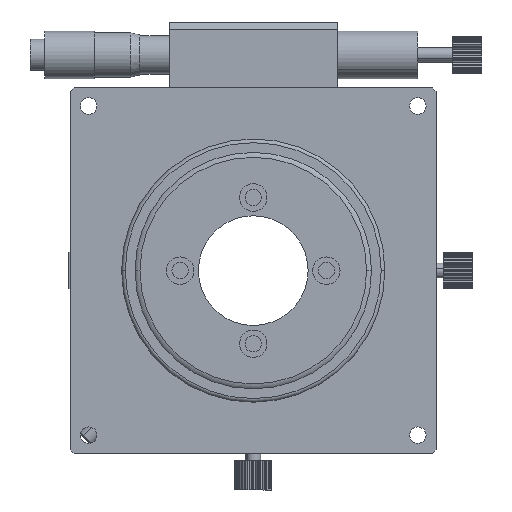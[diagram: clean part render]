
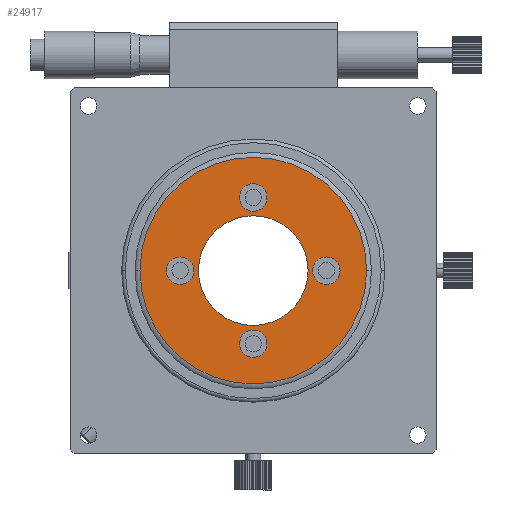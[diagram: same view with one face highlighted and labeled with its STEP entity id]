
A CAD part, front view. The second image highlights one B-rep face of the part: STEP entity #24917.
In plain terms, the highlighted planar face has unit normal (0, -1, 0).
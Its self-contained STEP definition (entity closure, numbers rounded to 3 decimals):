
#563 = AXIS2_PLACEMENT_3D ( 'NONE', #9814, #31135, #12867 ) ;
#587 = DIRECTION ( 'NONE',  ( 0., 0., -1. ) ) ;
#903 = FACE_OUTER_BOUND ( 'NONE', #1367, .T. ) ;
#966 = DIRECTION ( 'NONE',  ( 0., 0., -1. ) ) ;
#1009 = EDGE_LOOP ( 'NONE', ( #16637, #22359 ) ) ;
#1254 = CARTESIAN_POINT ( 'NONE',  ( 23.406, -21.158, 0. ) ) ;
#1337 = VERTEX_POINT ( 'NONE', #23628 ) ;
#1367 = EDGE_LOOP ( 'NONE', ( #6134, #11586 ) ) ;
#1520 = CARTESIAN_POINT ( 'NONE',  ( 3.406, -21.158, -23.75 ) ) ;
#1614 = CARTESIAN_POINT ( 'NONE',  ( 23.406, -21.158, -3.75 ) ) ;
#1992 = CIRCLE ( 'NONE', #24796, 3.75 ) ;
#2090 = AXIS2_PLACEMENT_3D ( 'NONE', #30614, #12341, #33673 ) ;
#2558 = EDGE_LOOP ( 'NONE', ( #32750, #18822 ) ) ;
#2568 = DIRECTION ( 'NONE',  ( 0., 0., -1. ) ) ;
#3516 = AXIS2_PLACEMENT_3D ( 'NONE', #17241, #38612, #20324 ) ;
#3521 = EDGE_CURVE ( 'NONE', #29390, #11456, #30899, .T. ) ;
#3973 = CARTESIAN_POINT ( 'NONE',  ( 3.406, -21.158, 20. ) ) ;
#4304 = DIRECTION ( 'NONE',  ( 0., 0., -1. ) ) ;
#5346 = CIRCLE ( 'NONE', #26317, 3.75 ) ;
#5705 = CARTESIAN_POINT ( 'NONE',  ( 3.406, -21.158, -15. ) ) ;
#6134 = ORIENTED_EDGE ( 'NONE', *, *, #6574, .F. ) ;
#6152 = CIRCLE ( 'NONE', #20673, 15. ) ;
#6574 = EDGE_CURVE ( 'NONE', #32008, #1337, #10202, .T. ) ;
#6951 = DIRECTION ( 'NONE',  ( 0., -1., 0. ) ) ;
#6994 = DIRECTION ( 'NONE',  ( 0., 0., -1. ) ) ;
#8507 = PLANE ( 'NONE',  #19730 ) ;
#8809 = EDGE_CURVE ( 'NONE', #14432, #32507, #6152, .T. ) ;
#8873 = AXIS2_PLACEMENT_3D ( 'NONE', #10730, #32045, #13769 ) ;
#8939 = AXIS2_PLACEMENT_3D ( 'NONE', #33422, #15155, #36497 ) ;
#8972 = FACE_BOUND ( 'NONE', #2558, .T. ) ;
#9814 = CARTESIAN_POINT ( 'NONE',  ( 23.406, -21.158, 0. ) ) ;
#9825 = EDGE_CURVE ( 'NONE', #32507, #14432, #14773, .T. ) ;
#9952 = FACE_BOUND ( 'NONE', #36792, .T. ) ;
#10202 = CIRCLE ( 'NONE', #8873, 31. ) ;
#10730 = CARTESIAN_POINT ( 'NONE',  ( 3.406, -21.158, 0. ) ) ;
#10908 = FACE_BOUND ( 'NONE', #27902, .T. ) ;
#11456 = VERTEX_POINT ( 'NONE', #37898 ) ;
#11462 = VERTEX_POINT ( 'NONE', #1520 ) ;
#11586 = ORIENTED_EDGE ( 'NONE', *, *, #21213, .F. ) ;
#12341 = DIRECTION ( 'NONE',  ( 0., -1., 0. ) ) ;
#12819 = CIRCLE ( 'NONE', #35246, 3.75 ) ;
#12867 = DIRECTION ( 'NONE',  ( 0., 0., -1. ) ) ;
#13032 = CARTESIAN_POINT ( 'NONE',  ( 3.406, -21.158, 23.75 ) ) ;
#13285 = VERTEX_POINT ( 'NONE', #13032 ) ;
#13305 = AXIS2_PLACEMENT_3D ( 'NONE', #18165, #39533, #21236 ) ;
#13769 = DIRECTION ( 'NONE',  ( 0., 0., 1. ) ) ;
#14432 = VERTEX_POINT ( 'NONE', #25705 ) ;
#14773 = CIRCLE ( 'NONE', #2090, 15. ) ;
#15141 = ORIENTED_EDGE ( 'NONE', *, *, #34669, .F. ) ;
#15155 = DIRECTION ( 'NONE',  ( 0., 1., 0. ) ) ;
#15213 = CARTESIAN_POINT ( 'NONE',  ( 3.406, -21.158, 31. ) ) ;
#16637 = ORIENTED_EDGE ( 'NONE', *, *, #3521, .F. ) ;
#16842 = CARTESIAN_POINT ( 'NONE',  ( 3.406, -21.158, 20. ) ) ;
#17051 = FACE_BOUND ( 'NONE', #1009, .T. ) ;
#17241 = CARTESIAN_POINT ( 'NONE',  ( 3.406, -21.158, -20. ) ) ;
#17415 = AXIS2_PLACEMENT_3D ( 'NONE', #1254, #22555, #4304 ) ;
#17609 = CARTESIAN_POINT ( 'NONE',  ( -16.594, -21.158, 3.75 ) ) ;
#18165 = CARTESIAN_POINT ( 'NONE',  ( -16.594, -21.158, 0. ) ) ;
#18465 = AXIS2_PLACEMENT_3D ( 'NONE', #37093, #18805, #587 ) ;
#18805 = DIRECTION ( 'NONE',  ( 0., -1., 0. ) ) ;
#18822 = ORIENTED_EDGE ( 'NONE', *, *, #8809, .F. ) ;
#18877 = CIRCLE ( 'NONE', #17415, 3.75 ) ;
#19204 = DIRECTION ( 'NONE',  ( 0., -1., 0. ) ) ;
#19730 = AXIS2_PLACEMENT_3D ( 'NONE', #29850, #20777, #2568 ) ;
#19741 = EDGE_CURVE ( 'NONE', #13285, #19949, #12819, .T. ) ;
#19938 = DIRECTION ( 'NONE',  ( 0., 0., -1. ) ) ;
#19949 = VERTEX_POINT ( 'NONE', #32593 ) ;
#20120 = CIRCLE ( 'NONE', #13305, 3.75 ) ;
#20324 = DIRECTION ( 'NONE',  ( 0., 0., -1. ) ) ;
#20673 = AXIS2_PLACEMENT_3D ( 'NONE', #25224, #6951, #28305 ) ;
#20777 = DIRECTION ( 'NONE',  ( 0., -1., 0. ) ) ;
#21213 = EDGE_CURVE ( 'NONE', #1337, #32008, #34068, .T. ) ;
#21236 = DIRECTION ( 'NONE',  ( 0., 0., -1. ) ) ;
#21578 = CARTESIAN_POINT ( 'NONE',  ( -16.594, -21.158, -3.75 ) ) ;
#21989 = CIRCLE ( 'NONE', #3516, 3.75 ) ;
#22359 = ORIENTED_EDGE ( 'NONE', *, *, #26043, .F. ) ;
#22555 = DIRECTION ( 'NONE',  ( 0., -1., 0. ) ) ;
#23390 = VERTEX_POINT ( 'NONE', #36121 ) ;
#23628 = CARTESIAN_POINT ( 'NONE',  ( 3.406, -21.158, -31. ) ) ;
#24308 = ORIENTED_EDGE ( 'NONE', *, *, #27550, .F. ) ;
#24533 = ORIENTED_EDGE ( 'NONE', *, *, #34918, .F. ) ;
#24796 = AXIS2_PLACEMENT_3D ( 'NONE', #37474, #19204, #966 ) ;
#24917 = ADVANCED_FACE ( 'NONE', ( #10908, #33298, #9952, #17051, #8972, #903 ), #8507, .T. ) ;
#25224 = CARTESIAN_POINT ( 'NONE',  ( 3.406, -21.158, 0. ) ) ;
#25226 = ORIENTED_EDGE ( 'NONE', *, *, #19741, .F. ) ;
#25265 = DIRECTION ( 'NONE',  ( 0., -1., 0. ) ) ;
#25705 = CARTESIAN_POINT ( 'NONE',  ( 3.406, -21.158, 15. ) ) ;
#26043 = EDGE_CURVE ( 'NONE', #11456, #29390, #18877, .T. ) ;
#26317 = AXIS2_PLACEMENT_3D ( 'NONE', #16842, #38214, #19938 ) ;
#27374 = CIRCLE ( 'NONE', #18465, 3.75 ) ;
#27550 = EDGE_CURVE ( 'NONE', #11462, #23390, #27374, .T. ) ;
#27902 = EDGE_LOOP ( 'NONE', ( #15141, #25226 ) ) ;
#28305 = DIRECTION ( 'NONE',  ( 0., 0., -1. ) ) ;
#29374 = ORIENTED_EDGE ( 'NONE', *, *, #35388, .F. ) ;
#29390 = VERTEX_POINT ( 'NONE', #1614 ) ;
#29837 = EDGE_CURVE ( 'NONE', #23390, #11462, #21989, .T. ) ;
#29850 = CARTESIAN_POINT ( 'NONE',  ( -27.594, -21.158, 0. ) ) ;
#30362 = VERTEX_POINT ( 'NONE', #17609 ) ;
#30614 = CARTESIAN_POINT ( 'NONE',  ( 3.406, -21.158, 0. ) ) ;
#30899 = CIRCLE ( 'NONE', #563, 3.75 ) ;
#31135 = DIRECTION ( 'NONE',  ( 0., -1., 0. ) ) ;
#32008 = VERTEX_POINT ( 'NONE', #15213 ) ;
#32045 = DIRECTION ( 'NONE',  ( 0., 1., 0. ) ) ;
#32507 = VERTEX_POINT ( 'NONE', #5705 ) ;
#32593 = CARTESIAN_POINT ( 'NONE',  ( 3.406, -21.158, 16.25 ) ) ;
#32750 = ORIENTED_EDGE ( 'NONE', *, *, #9825, .F. ) ;
#33298 = FACE_BOUND ( 'NONE', #35841, .T. ) ;
#33422 = CARTESIAN_POINT ( 'NONE',  ( 3.406, -21.158, 0. ) ) ;
#33673 = DIRECTION ( 'NONE',  ( 0., 0., -1. ) ) ;
#34068 = CIRCLE ( 'NONE', #8939, 31. ) ;
#34669 = EDGE_CURVE ( 'NONE', #19949, #13285, #5346, .T. ) ;
#34918 = EDGE_CURVE ( 'NONE', #30362, #35690, #20120, .T. ) ;
#35246 = AXIS2_PLACEMENT_3D ( 'NONE', #3973, #25265, #6994 ) ;
#35388 = EDGE_CURVE ( 'NONE', #35690, #30362, #1992, .T. ) ;
#35690 = VERTEX_POINT ( 'NONE', #21578 ) ;
#35841 = EDGE_LOOP ( 'NONE', ( #29374, #24533 ) ) ;
#36121 = CARTESIAN_POINT ( 'NONE',  ( 3.406, -21.158, -16.25 ) ) ;
#36497 = DIRECTION ( 'NONE',  ( 0., 0., 1. ) ) ;
#36792 = EDGE_LOOP ( 'NONE', ( #24308, #37749 ) ) ;
#37093 = CARTESIAN_POINT ( 'NONE',  ( 3.406, -21.158, -20. ) ) ;
#37474 = CARTESIAN_POINT ( 'NONE',  ( -16.594, -21.158, 0. ) ) ;
#37749 = ORIENTED_EDGE ( 'NONE', *, *, #29837, .F. ) ;
#37898 = CARTESIAN_POINT ( 'NONE',  ( 23.406, -21.158, 3.75 ) ) ;
#38214 = DIRECTION ( 'NONE',  ( 0., -1., 0. ) ) ;
#38612 = DIRECTION ( 'NONE',  ( 0., -1., 0. ) ) ;
#39533 = DIRECTION ( 'NONE',  ( 0., -1., 0. ) ) ;
